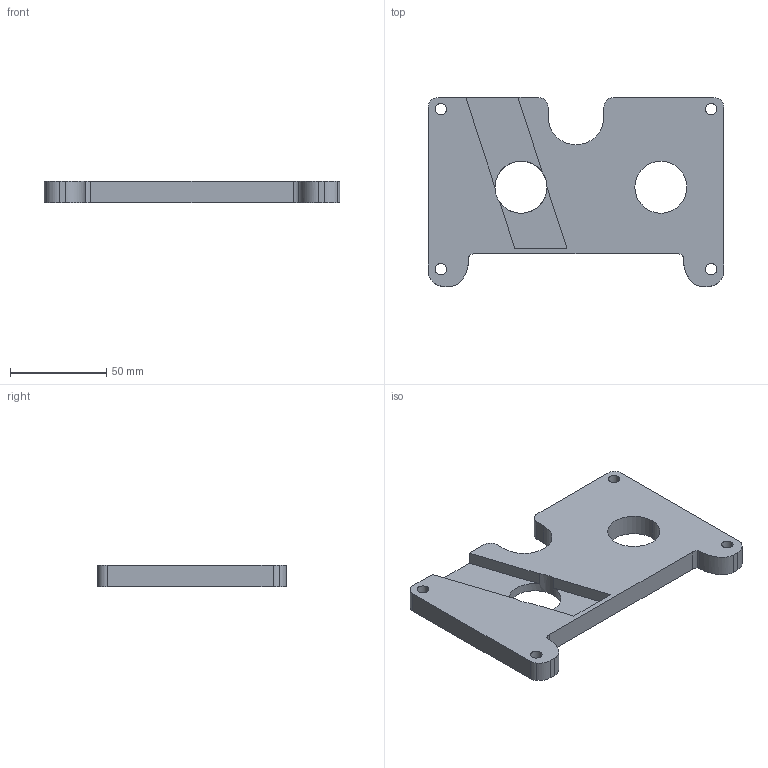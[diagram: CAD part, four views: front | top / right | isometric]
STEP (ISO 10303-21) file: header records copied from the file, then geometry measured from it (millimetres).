
FILE_DESCRIPTION (( 'STEP AP203' ), '1' );
FILE_NAME ('ïëèòà 5à.STEP', '2025-02-10T09:12:24', ( '' ), ( '' ), 'SwSTEP 2.0', 'SolidWorks 2021', '' );
FILE_SCHEMA (( 'CONFIG_CONTROL_DESIGN' ));
Length unit declared in the file: millimetre
Products named in the file (1): ïëèòà 5à
Bounding box: 153 x 97.98 x 11 mm (x, y, z)
Volume: 112418.6 mm3; surface area: 31435.6 mm2
Topology: 1 solids, 1 shells, 45 faces, 132 edges, 88 vertices
Faces by surface type: cylinder 25, plane 18, bspline 2
Entity records: 1718 total; most frequent: CARTESIAN_POINT 377, DIRECTION 270, ORIENTED_EDGE 264, EDGE_CURVE 132, AXIS2_PLACEMENT_3D 98, VERTEX_POINT 88, VECTOR 74, LINE 74
